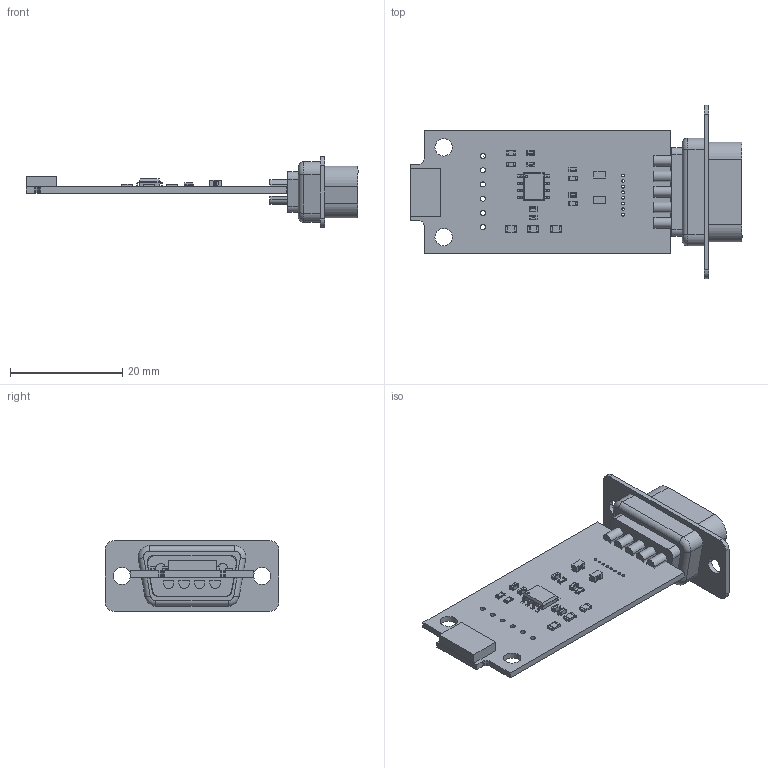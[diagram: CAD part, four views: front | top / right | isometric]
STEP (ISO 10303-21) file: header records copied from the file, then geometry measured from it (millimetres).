
FILE_DESCRIPTION(('Open CASCADE Model'),'2;1');
FILE_NAME('Open CASCADE Shape Model','2016-05-25T19:49:33',('Author'),( 'Open CASCADE'),'Open CASCADE STEP processor 6.5','Open CASCADE 6.5' ,'Unknown');
FILE_SCHEMA(('AUTOMOTIVE_DESIGN { 1 0 10303 214 1 1 1 1 }'));
Length unit declared in the file: millimetre
Products named in the file (35): PCB; Board; K2; db9M_kabel; C2; C0603; C1; R1; SW3dPS-R0603; R2; R3; R4; C5; L4; srf2012a; L3; L2; SW3dPS-R0805; IC1; SW3DPS-SO-8-DEFAULT; VAR1; C4; C3; C6; K1a; 849285176; Cylinder; K1b; 922350944; K2a; L1; K1; 849265808; Extruded
Assembly tree (46 placements, depth 4):
  PCB
    Board
    K2
      db9M_kabel
    C2
      C0603
    C1
      C0603
    R1
      SW3dPS-R0603
    R2
      SW3dPS-R0603
    R3
      SW3dPS-R0603
    R4
      SW3dPS-R0603
    C5
      C0603
    L4
      srf2012a
    L3
      srf2012a
    L2
      SW3dPS-R0805
    IC1
      SW3DPS-SO-8-DEFAULT
    VAR1
      SW3dPS-R0805
    C4
      C0603
    C3
      C0603
    C6
      C0603
    K1a
      849285176
        Cylinder
    K1b
      922350944
        Cylinder
    K2a
      922350944
        Cylinder
    L1
      SW3dPS-R0805
    K1
      849265808
        Extruded
Bounding box: 59.21 x 30.89 x 12.6 mm (x, y, z)
Volume: 2563 mm3; surface area: 4973.5 mm2
Topology: 42 solids, 42 shells, 1992 faces, 5085 edges, 3214 vertices
Faces by surface type: plane 1173, cylinder 373, bspline 372, sphere 64, torus 8, extrusion 2
Full cylindrical faces by diameter (mm): 0 x1, 0.002 x2, 0.5 x8, 0.9 x6, 3.1 x2
Entity records: 74575 total; most frequent: CARTESIAN_POINT 24738, DIRECTION 8368, VECTOR 5491, LINE 5489, ORIENTED_EDGE 5030, PCURVE 5030, DEFINITIONAL_REPRESENTATION 5030, EDGE_CURVE 2515
